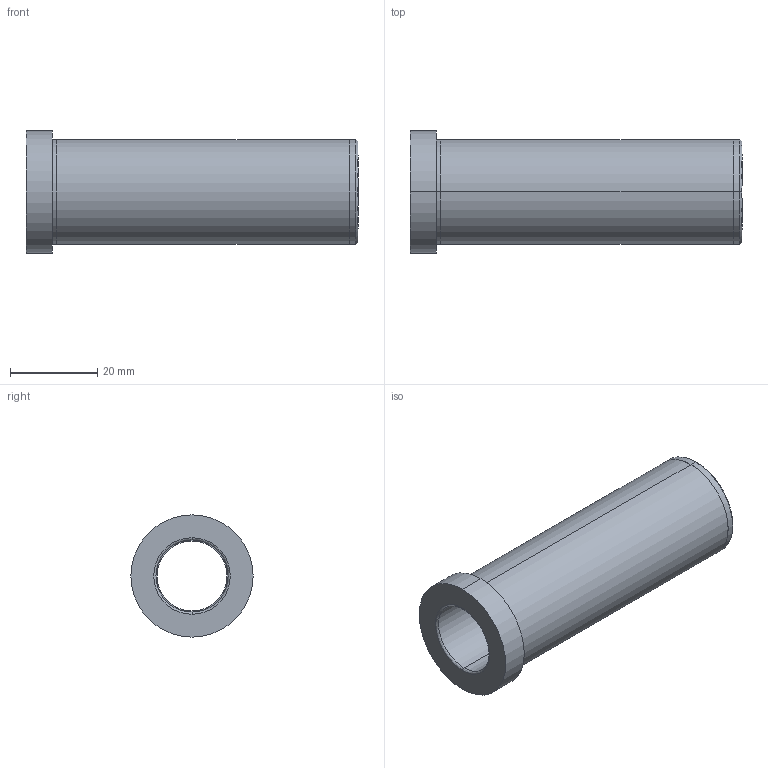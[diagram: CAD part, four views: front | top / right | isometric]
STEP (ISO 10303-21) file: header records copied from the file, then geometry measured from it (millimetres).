
FILE_DESCRIPTION( ( 'STEP AP203' ), '1' );
FILE_NAME( 'D:/Delta 3 D/D20/D20 - 16x76.step', '2002-12-31T23:35:19', ( ' ' ), ( ' ' ), 'XStep 1.0', ' ', ' ' );
FILE_SCHEMA( ( 'CONFIG_CONTROL_DESIGN' ) );
Length unit declared in the file: metre
Products named in the file (1): 1
Bounding box: 76 x 28 x 28 mm (x, y, z)
Volume: 19759.4 mm3; surface area: 10460.8 mm2
Topology: 1 solids, 1 shells, 24 faces, 48 edges, 30 vertices
Faces by surface type: revolution 14, bspline 10
Entity records: 755 total; most frequent: CARTESIAN_POINT 221, ORIENTED_EDGE 96, DIRECTION 90, EDGE_CURVE 48, AXIS2_PLACEMENT_3D 31, EDGE_LOOP 30, VERTEX_POINT 30, CIRCLE 30
